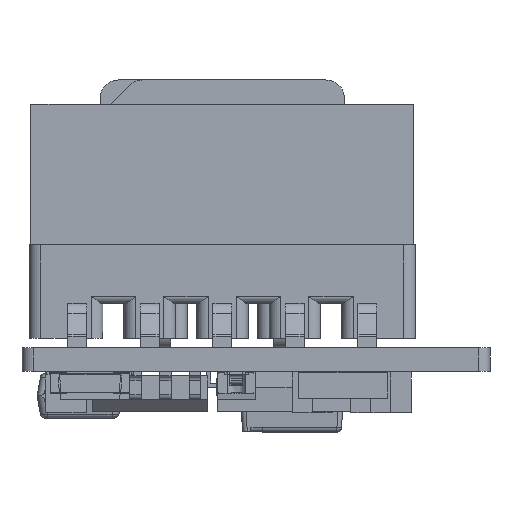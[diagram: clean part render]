
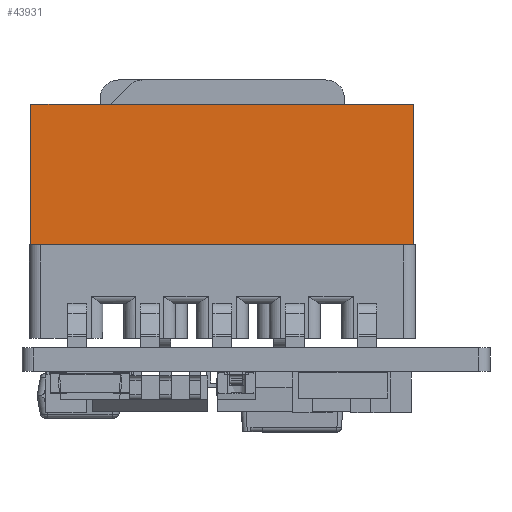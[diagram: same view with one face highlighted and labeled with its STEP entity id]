
A CAD part, left-side view. The second image highlights one B-rep face of the part: STEP entity #43931.
In plain terms, the highlighted planar face has unit normal (-1, 0, 0).
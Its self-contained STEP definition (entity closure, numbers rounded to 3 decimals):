
#1675 = LINE ( 'NONE', #16618, #69424 ) ;
#5076 = VECTOR ( 'NONE', #42558, 1000. ) ;
#6100 = DIRECTION ( 'NONE',  ( 1., 0., 0. ) ) ;
#9566 = EDGE_CURVE ( 'NONE', #33773, #73404, #26264, .T. ) ;
#16618 = CARTESIAN_POINT ( 'NONE',  ( -9.453, 8.642, 4.9 ) ) ;
#16805 = EDGE_CURVE ( 'NONE', #73404, #52615, #78010, .T. ) ;
#20069 = EDGE_CURVE ( 'NONE', #41418, #33773, #35662, .T. ) ;
#23206 = CARTESIAN_POINT ( 'NONE',  ( -9.453, 16.817, 4.9 ) ) ;
#23768 = DIRECTION ( 'NONE',  ( 0., 0., 1. ) ) ;
#26264 = LINE ( 'NONE', #28322, #5076 ) ;
#26980 = CARTESIAN_POINT ( 'NONE',  ( -9.453, 8.642, 7.9 ) ) ;
#27267 = EDGE_LOOP ( 'NONE', ( #71730, #62270, #51936, #36939 ) ) ;
#28322 = CARTESIAN_POINT ( 'NONE',  ( -9.453, 8.642, 10.9 ) ) ;
#29060 = EDGE_CURVE ( 'NONE', #52615, #41418, #1675, .T. ) ;
#33773 = VERTEX_POINT ( 'NONE', #68437 ) ;
#35662 = LINE ( 'NONE', #73104, #71171 ) ;
#36939 = ORIENTED_EDGE ( 'NONE', *, *, #20069, .F. ) ;
#39227 = FACE_OUTER_BOUND ( 'NONE', #27267, .T. ) ;
#40448 = CARTESIAN_POINT ( 'NONE',  ( -9.453, 0.467, 7.9 ) ) ;
#41418 = VERTEX_POINT ( 'NONE', #23206 ) ;
#42558 = DIRECTION ( 'NONE',  ( 0., -1., 0. ) ) ;
#43931 = ADVANCED_FACE ( 'NONE', ( #39227 ), #70065, .F. ) ;
#46608 = AXIS2_PLACEMENT_3D ( 'NONE', #26980, #6100, #48634 ) ;
#48634 = DIRECTION ( 'NONE',  ( 0., -1., 0. ) ) ;
#51936 = ORIENTED_EDGE ( 'NONE', *, *, #9566, .F. ) ;
#52615 = VERTEX_POINT ( 'NONE', #70126 ) ;
#58828 = DIRECTION ( 'NONE',  ( 0., 1., 0. ) ) ;
#59421 = CARTESIAN_POINT ( 'NONE',  ( -9.453, 0.467, 10.9 ) ) ;
#62270 = ORIENTED_EDGE ( 'NONE', *, *, #16805, .F. ) ;
#63554 = VECTOR ( 'NONE', #69018, 1000. ) ;
#68437 = CARTESIAN_POINT ( 'NONE',  ( -9.453, 16.817, 10.9 ) ) ;
#69018 = DIRECTION ( 'NONE',  ( 0., 0., -1. ) ) ;
#69424 = VECTOR ( 'NONE', #58828, 1000. ) ;
#70065 = PLANE ( 'NONE',  #46608 ) ;
#70126 = CARTESIAN_POINT ( 'NONE',  ( -9.453, 0.467, 4.9 ) ) ;
#71171 = VECTOR ( 'NONE', #23768, 1000. ) ;
#71730 = ORIENTED_EDGE ( 'NONE', *, *, #29060, .F. ) ;
#73104 = CARTESIAN_POINT ( 'NONE',  ( -9.453, 16.817, 7.9 ) ) ;
#73404 = VERTEX_POINT ( 'NONE', #59421 ) ;
#78010 = LINE ( 'NONE', #40448, #63554 ) ;
